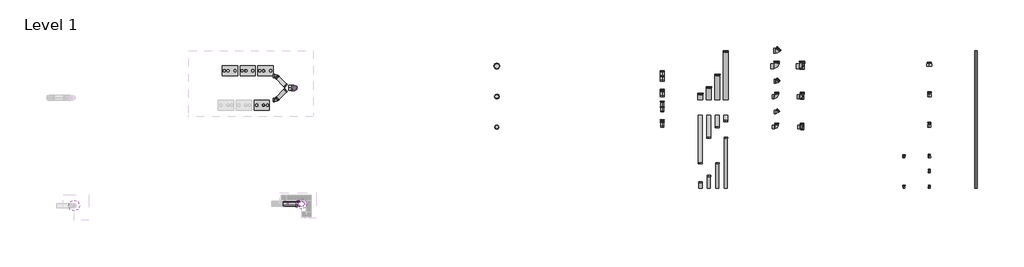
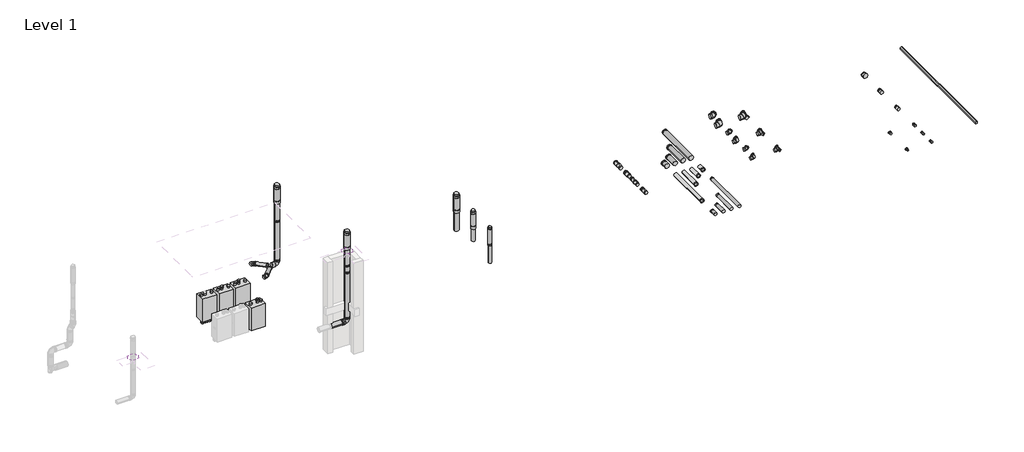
# One storey, part 2 of 2: 43 duct fittings, 5 air terminals, 4 duct segments, 4 unitary equipment elements, 2 coverings.
"""IFC4 building model written with IfcOpenShell, lengths in millimetres."""

from ifc_helpers import new_model, si_unit, point, frame, frame_2d, origin, place, context, project, spatial, circle_curve, ellipse_curve, trimmed, segment, composite_curve, outline, extrude, transform, mapped, element, save
from ifc_brep_helpers import plane_surface, cylinder_surface, advanced_brep
from components import air_terminal_c4a1c7fc, air_terminal_16127070, air_terminal_aa595a08, air_terminal_d551fddf, covering_b4739faa, covering_65d68dae, duct_fitting_874dda1b, duct_fitting_8a0d83d2, duct_fitting_533d9af2, duct_fitting_b8df35ce, duct_fitting_9e2eeb5f, duct_fitting_29f06fc0, duct_fitting_5c795bad, duct_fitting_2964ce86, duct_fitting_6345bc61, duct_fitting_84fb14a7, duct_fitting_6d300570, duct_fitting_8dfe7da2, duct_fitting_3590a55b, duct_fitting_fbf5378a, duct_fitting_61e90ce6, duct_fitting_7c9a1def, duct_fitting_1957377e, duct_fitting_58c5740b, duct_fitting_590bbebe, duct_fitting_acd04bb9, duct_fitting_d5854984, duct_fitting_9444e74b, duct_fitting_ad141df4, duct_fitting_7f7e895c, duct_fitting_6e9e7a38, duct_fitting_632ce2a9, duct_fitting_e9746d7f, duct_fitting_32ee2810, duct_fitting_345853f5, duct_fitting_ab07d6e0, duct_fitting_0e4c7d32, duct_fitting_113a3a52, duct_fitting_2b33db09, duct_fitting_a8be000e, duct_fitting_de41c6b8, duct_fitting_274715c7, duct_fitting_88745d1b, duct_fitting_c2fbb5bf, type_1_50a8d933

model = new_model("IFC4")

# Units and contexts
model_context = context("Model", 3, world=origin())
ifc_project = project(units=[si_unit("LENGTHUNIT", "METRE", prefix="MILLI")], contexts=[model_context])

# Site, building, storey
site = spatial("IfcSite", under=ifc_project)
building = spatial("IfcBuilding", under=site)
storey = spatial("IfcBuildingStorey", under=building, Name="Level 1", Elevation=0.0)

# Air terminals
placement = place(None, origin())
air_terminal_shape = air_terminal_c4a1c7fc(model_context)
element("IfcAirTerminal", 1, ObjectType="NLRS_57_AIR_WPB_flue gas rooftop terminal_M&G : PP Black, ø130", at=placement, inside=storey, context=model_context, shape_type="MappedRepresentation", body=[
    mapped(air_terminal_shape, transform((16514.6162486, 5619.2351178, 0.0), x_axis=(1.0, 0.0, 0.0), y_axis=(0.0, 1.0, 0.0), z_axis=(0.0, 0.0, 1.0))),
])
air_terminal_2_shape = air_terminal_16127070(model_context)
element("IfcAirTerminal", 2, ObjectType="NLRS_57_AIR_WPB_flue gas rooftop terminal_M&G : PP Black, ø150", at=placement, inside=storey, context=model_context, shape_type="MappedRepresentation", body=[
    mapped(air_terminal_2_shape, transform((16514.6162486, 6819.2351178, 0.0), x_axis=(1.0, 0.0, 0.0), y_axis=(0.0, 1.0, 0.0), z_axis=(0.0, 0.0, 1.0))),
])
air_terminal_3_shape = air_terminal_aa595a08(model_context)
element("IfcAirTerminal", 3, ObjectType="NLRS_57_AIR_WPB_flue gas rooftop terminal_M&G : PP Black, ø200", at=placement, inside=storey, context=model_context, shape_type="MappedRepresentation", body=[
    mapped(air_terminal_3_shape, transform((16514.6162486, 8019.2351178, 0.0), x_axis=(1.0, 0.0, 0.0), y_axis=(0.0, 1.0, 0.0), z_axis=(0.0, 0.0, 1.0))),
])
air_terminal_4_shape = air_terminal_d551fddf(model_context)
element("IfcAirTerminal", 4, ObjectType="NLRS_57_AIR_WPB_flue gas rooftop terminal_M&G : PP Black, ø200", at=placement, inside=storey, context=model_context, shape_type="MappedRepresentation", body=[
    mapped(air_terminal_4_shape, transform((8838.8962129, 2600.9771745, 4345.0), x_axis=(1.0, 0.0, 0.0), y_axis=(0.0, 1.0, 0.0), z_axis=(0.0, 0.0, 1.0))),
])
element("IfcAirTerminal", 5, ObjectType="NLRS_57_AIR_WPB_flue gas rooftop terminal_M&G : PP Black, ø200", at=placement, inside=storey, context=model_context, shape_type="MappedRepresentation", body=[
    mapped(air_terminal_3_shape, transform((8559.264358, 7157.3674066, 3705.2550343), x_axis=(1.0, 0.0, 0.0), y_axis=(0.0, 1.0, 0.0), z_axis=(0.0, 0.0, 1.0))),
])

# Coverings
covering_shape = covering_b4739faa(model_context)
element("IfcCovering", 6, ObjectType="NLRS_57_GM_WPB_weather slate flat roof_M&G : ø160", at=placement, inside=storey, context=model_context, shape_type="MappedRepresentation", body=[
    mapped(covering_shape, transform((-100.4372498, 2531.918901, 2750.0), x_axis=(1.0, 0.0, 0.0), y_axis=(0.0, 1.0, 0.0), z_axis=(0.0, 0.0, 1.0))),
])
covering_2_shape = covering_65d68dae(model_context)
element("IfcCovering", 7, ObjectType="NLRS_57_GM_WPB_weather slate flat roof_M&G : ø204", at=placement, inside=storey, context=model_context, shape_type="MappedRepresentation", body=[
    mapped(covering_2_shape, transform((8838.8962129, 2600.9771745, 4250.0), x_axis=(1.0, 0.0, 0.0), y_axis=(0.0, 1.0, 0.0), z_axis=(0.0, 0.0, 1.0))),
])

# Duct fittings
duct_fitting_shape = duct_fitting_874dda1b(model_context)
element("IfcDuctFitting", 8, ObjectType="NLRS_57_DUF_UN_Twinline Supportbend_M&G : ø130 - 150 - 200", at=placement, inside=storey, context=model_context, shape_type="MappedRepresentation", body=[
    mapped(duct_fitting_shape, transform((28514.6162486, 5619.2351178, 0.0), x_axis=(1.0, 0.0, 0.0), y_axis=(0.0, 1.0, 0.0), z_axis=(0.0, 0.0, 1.0))),
])
duct_fitting_2_shape = duct_fitting_8a0d83d2(model_context)
element("IfcDuctFitting", 9, ObjectType="NLRS_57_DUF_UN_Twinline Bend_M&G : ø130 - 150 - 200", at=placement, inside=storey, context=model_context, shape_type="MappedRepresentation", body=[
    mapped(duct_fitting_2_shape, transform((27514.6162486, 5619.2351178, 0.0), x_axis=(1.0, 0.0, 0.0), y_axis=(0.0, 1.0, 0.0), z_axis=(0.0, 0.0, 1.0))),
])
duct_fitting_3_shape = duct_fitting_533d9af2(model_context)
element("IfcDuctFitting", 10, ObjectType="NLRS_57_DUF_UN_Twinline Expander_M&G : ø60-80-100-130-150-200", at=placement, inside=storey, context=model_context, shape_type="MappedRepresentation", body=[
    mapped(duct_fitting_3_shape, transform((32514.6162486, 4419.2351178, 0.0), x_axis=(0.0, 1.0, 0.0), y_axis=(-1.0, 0.0, 0.0), z_axis=(0.0, 0.0, 1.0))),
])
duct_fitting_4_shape = duct_fitting_b8df35ce(model_context)
element("IfcDuctFitting", 11, ObjectType="NLRS_57_DUF_UN_Twinline Reducer_M&G : ø080-100-150-200", at=placement, inside=storey, context=model_context, shape_type="MappedRepresentation", body=[
    mapped(duct_fitting_4_shape, transform((33514.6162486, 5619.2351178, 0.0), x_axis=(0.0, 1.0, 0.0), y_axis=(-1.0, 0.0, 0.0), z_axis=(0.0, 0.0, 1.0))),
])
duct_fitting_5_shape = duct_fitting_9e2eeb5f(model_context)
element("IfcDuctFitting", 12, ObjectType="NLRS_57_DUF_UN_Twinline Supportbend_M&G : ø130 - 150 - 200", at=placement, inside=storey, context=model_context, shape_type="MappedRepresentation", body=[
    mapped(duct_fitting_5_shape, transform((28514.6162486, 6819.2351178, 0.0), x_axis=(1.0, 0.0, 0.0), y_axis=(0.0, 1.0, 0.0), z_axis=(0.0, 0.0, 1.0))),
])
duct_fitting_6_shape = duct_fitting_29f06fc0(model_context)
element("IfcDuctFitting", 13, ObjectType="NLRS_57_DUF_UN_Twinline Supportbend_M&G : ø130 - 150 - 200", at=placement, inside=storey, context=model_context, shape_type="MappedRepresentation", body=[
    mapped(duct_fitting_6_shape, transform((28514.6162486, 8019.2351178, 0.0), x_axis=(1.0, 0.0, 0.0), y_axis=(0.0, 1.0, 0.0), z_axis=(0.0, 0.0, 1.0))),
])
duct_fitting_7_shape = duct_fitting_5c795bad(model_context)
element("IfcDuctFitting", 14, ObjectType="NLRS_57_DUF_UN_Twinline Reducer_M&G : ø080-100-150-200", at=placement, inside=storey, context=model_context, shape_type="MappedRepresentation", body=[
    mapped(duct_fitting_7_shape, transform((33514.6162486, 3219.2351178, 0.0), x_axis=(0.0, 1.0, 0.0), y_axis=(-1.0, 0.0, 0.0), z_axis=(0.0, 0.0, 1.0))),
])
duct_fitting_8_shape = duct_fitting_2964ce86(model_context)
element("IfcDuctFitting", 15, ObjectType="NLRS_57_DUF_UN_Twinline Reducer_M&G : ø080-100-150-200", at=placement, inside=storey, context=model_context, shape_type="MappedRepresentation", body=[
    mapped(duct_fitting_8_shape, transform((33514.6162486, 4419.2351178, 0.0), x_axis=(0.0, 1.0, 0.0), y_axis=(-1.0, 0.0, 0.0), z_axis=(0.0, 0.0, 1.0))),
])
duct_fitting_9_shape = duct_fitting_6345bc61(model_context)
element("IfcDuctFitting", 16, ObjectType="NLRS_57_DUF_UN_Twinline Reducer_M&G : ø080-100-150-200", at=placement, inside=storey, context=model_context, shape_type="MappedRepresentation", body=[
    mapped(duct_fitting_9_shape, transform((33514.6162486, 6819.2351178, 0.0), x_axis=(0.0, 1.0, 0.0), y_axis=(-1.0, 0.0, 0.0), z_axis=(0.0, 0.0, 1.0))),
])
duct_fitting_10_shape = duct_fitting_84fb14a7(model_context)
element("IfcDuctFitting", 17, ObjectType="NLRS_57_DUF_UN_Twinline Reducer_M&G : ø080-100-150-200", at=placement, inside=storey, context=model_context, shape_type="MappedRepresentation", body=[
    mapped(duct_fitting_10_shape, transform((33514.6162486, 8019.2351178, 0.0), x_axis=(0.0, 1.0, 0.0), y_axis=(-1.0, 0.0, 0.0), z_axis=(0.0, 0.0, 1.0))),
])
duct_fitting_11_shape = duct_fitting_6d300570(model_context)
element("IfcDuctFitting", 18, ObjectType="NLRS_57_DUF_UN_Twinline Reducer_M&G : ø080-100-150-200", at=placement, inside=storey, context=model_context, shape_type="MappedRepresentation", body=[
    mapped(duct_fitting_11_shape, transform((33514.6162486, 3819.2351178, 0.0), x_axis=(0.0, 1.0, 0.0), y_axis=(-1.0, 0.0, 0.0), z_axis=(0.0, 0.0, 1.0))),
])
duct_fitting_12_shape = duct_fitting_8dfe7da2(model_context)
element("IfcDuctFitting", 19, ObjectType="NLRS_57_DUF_UN_Twinline Extension_M&G : ø130-150-200", at=placement, inside=storey, context=model_context, shape_type="MappedRepresentation", body=[
    mapped(duct_fitting_12_shape, transform((24847.9495819, 6704.2351178, 0.0), x_axis=(0.0, 1.0, 0.0), y_axis=(-1.0, 0.0, 0.0), z_axis=(0.0, 0.0, 1.0))),
])
duct_fitting_13_shape = duct_fitting_3590a55b(model_context)
element("IfcDuctFitting", 20, ObjectType="NLRS_57_DUF_UN_Twinline Extension_M&G : ø130-150-200", at=placement, inside=storey, context=model_context, shape_type="MappedRepresentation", body=[
    mapped(duct_fitting_13_shape, transform((8106.8962129, 2600.9771745, 1178.3755805), x_axis=(1.0, 0.0, 0.0), y_axis=(0.0, 1.0, 0.0), z_axis=(0.0, 0.0, 1.0))),
])
duct_fitting_14_shape = duct_fitting_fbf5378a(model_context)
element("IfcDuctFitting", 21, ObjectType="NLRS_57_DUF_UN_Twinline Extension_M&G : ø130-150-200", at=placement, inside=storey, context=model_context, shape_type="MappedRepresentation", body=[
    mapped(duct_fitting_14_shape, transform((8838.8962129, 2600.9771745, 1313.3755805), x_axis=(0.0, 0.0, 1.0), y_axis=(-1.0, 0.0, 0.0), z_axis=(0.0, -1.0, 0.0))),
])
duct_fitting_15_shape = duct_fitting_61e90ce6(model_context)
element("IfcDuctFitting", 22, ObjectType="NLRS_57_DUF_UN_Twinline Extension_M&G : ø130-150-200", at=placement, inside=storey, context=model_context, shape_type="MappedRepresentation", body=[
    mapped(duct_fitting_15_shape, transform((8838.8962129, 2600.9771745, 3313.3755805), x_axis=(0.0, 0.0, 1.0), y_axis=(-1.0, 0.0, 0.0), z_axis=(0.0, -1.0, 0.0))),
])
duct_fitting_16_shape = duct_fitting_7c9a1def(model_context)
element("IfcDuctFitting", 23, ObjectType="NLRS_57_DUF_UN_Twinline Extension_M&G : ø130-150-200", at=placement, inside=storey, context=model_context, shape_type="MappedRepresentation", body=[
    mapped(duct_fitting_16_shape, transform((7871.6808629, 6729.14354, 997.8208209), x_axis=(0.7069643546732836, 0.707106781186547, 0.014191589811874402), y_axis=(-0.7069643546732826, 0.7071067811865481, -0.01419158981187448), z_axis=(-0.020069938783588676, 0.0, 0.9997985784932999))),
])
element("IfcDuctFitting", 24, ObjectType="NLRS_57_DUF_UN_Twinline Extension_M&G : ø130-150-200", at=placement, inside=storey, context=model_context, shape_type="MappedRepresentation", body=[
    mapped(duct_fitting_16_shape, transform((25181.2829153, 6089.2351058, 0.0), x_axis=(0.0, -1.0, 0.0), y_axis=(1.0, 0.0, 0.0), z_axis=(0.0, 0.0, 1.0))),
])
element("IfcDuctFitting", 25, ObjectType="NLRS_57_DUF_UN_Twinline Extension_M&G : ø130-150-200", at=placement, inside=storey, context=model_context, shape_type="MappedRepresentation", body=[
    mapped(duct_fitting_16_shape, transform((7871.6808629, 7585.5912733, 997.8208209), x_axis=(0.7069643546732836, -0.707106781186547, 0.014191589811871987), y_axis=(-0.7069643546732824, -0.7071067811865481, -0.014191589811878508), z_axis=(0.020069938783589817, 0.0, -0.9997985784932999))),
])
duct_fitting_17_shape = duct_fitting_1957377e(model_context)
element("IfcDuctFitting", 26, ObjectType="NLRS_57_DUF_UN_Twinline Extension_M&G : ø130-150-200", at=placement, inside=storey, context=model_context, shape_type="MappedRepresentation", body=[
    mapped(duct_fitting_17_shape, transform((8559.264358, 7157.3674066, 1171.6283963), x_axis=(0.0, 0.0, 1.0), y_axis=(-1.0, 0.0, 0.0), z_axis=(0.0, -1.0, 0.0))),
])
duct_fitting_18_shape = duct_fitting_58c5740b(model_context)
element("IfcDuctFitting", 27, ObjectType="NLRS_57_DUF_UN_Twinline Extension_M&G : ø130-150-200", at=placement, inside=storey, context=model_context, shape_type="MappedRepresentation", body=[
    mapped(duct_fitting_18_shape, transform((24847.9495819, 3219.2351178, 0.0), x_axis=(0.0, 1.0, 0.0), y_axis=(-1.0, 0.0, 0.0), z_axis=(0.0, 0.0, 1.0))),
])
duct_fitting_19_shape = duct_fitting_590bbebe(model_context)
element("IfcDuctFitting", 28, ObjectType="NLRS_57_DUF_UN_Twinline Extension_M&G : ø130-150-200", at=placement, inside=storey, context=model_context, shape_type="MappedRepresentation", body=[
    mapped(duct_fitting_19_shape, transform((24514.6162486, 3219.2351178, 0.0), x_axis=(0.0, 1.0, 0.0), y_axis=(-1.0, 0.0, 0.0), z_axis=(0.0, 0.0, 1.0))),
])
duct_fitting_20_shape = duct_fitting_acd04bb9(model_context)
element("IfcDuctFitting", 29, ObjectType="NLRS_57_DUF_UN_Twinline Extension_M&G : ø130-150-200", at=placement, inside=storey, context=model_context, shape_type="MappedRepresentation", body=[
    mapped(duct_fitting_20_shape, transform((25181.2829153, 3219.2351178, 0.0), x_axis=(0.0, 1.0, 0.0), y_axis=(-1.0, 0.0, 0.0), z_axis=(0.0, 0.0, 1.0))),
])
duct_fitting_21_shape = duct_fitting_d5854984(model_context)
element("IfcDuctFitting", 30, ObjectType="NLRS_57_DUF_UN_Twinline Extension_M&G : ø130-150-200", at=placement, inside=storey, context=model_context, shape_type="MappedRepresentation", body=[
    mapped(duct_fitting_21_shape, transform((25514.6162486, 3219.2351178, 0.0), x_axis=(0.0, 1.0, 0.0), y_axis=(-1.0, 0.0, 0.0), z_axis=(0.0, 0.0, 1.0))),
])
duct_fitting_22_shape = duct_fitting_9444e74b(model_context)
element("IfcDuctFitting", 31, ObjectType="NLRS_57_DUF_UN_Twinline Extension_M&G : ø130-150-200", at=placement, inside=storey, context=model_context, shape_type="MappedRepresentation", body=[
    mapped(duct_fitting_22_shape, transform((24847.9495819, 6089.2351058, 0.0), x_axis=(0.0, -1.0, 0.0), y_axis=(1.0, 0.0, 0.0), z_axis=(0.0, 0.0, 1.0))),
])
duct_fitting_23_shape = duct_fitting_ad141df4(model_context)
element("IfcDuctFitting", 32, ObjectType="NLRS_57_DUF_UN_Twinline Extension_M&G : ø130-150-200", at=placement, inside=storey, context=model_context, shape_type="MappedRepresentation", body=[
    mapped(duct_fitting_23_shape, transform((24514.6162486, 6089.2351058, 0.0), x_axis=(0.0, -1.0, 0.0), y_axis=(1.0, 0.0, 0.0), z_axis=(0.0, 0.0, 1.0))),
])
duct_fitting_24_shape = duct_fitting_7f7e895c(model_context)
element("IfcDuctFitting", 33, ObjectType="NLRS_57_DUF_UN_Twinline Extension_M&G : ø130-150-200", at=placement, inside=storey, context=model_context, shape_type="MappedRepresentation", body=[
    mapped(duct_fitting_24_shape, transform((24514.6162486, 6704.2351178, 0.0), x_axis=(0.0, 1.0, 0.0), y_axis=(-1.0, 0.0, 0.0), z_axis=(0.0, 0.0, 1.0))),
])
duct_fitting_25_shape = duct_fitting_6e9e7a38(model_context)
element("IfcDuctFitting", 34, ObjectType="NLRS_57_DUF_UN_Twinline Extension_M&G : ø130-150-200", at=placement, inside=storey, context=model_context, shape_type="MappedRepresentation", body=[
    mapped(duct_fitting_25_shape, transform((25181.2829153, 6704.2351178, 0.0), x_axis=(0.0, 1.0, 0.0), y_axis=(-1.0, 0.0, 0.0), z_axis=(0.0, 0.0, 1.0))),
])
duct_fitting_26_shape = duct_fitting_632ce2a9(model_context)
element("IfcDuctFitting", 35, ObjectType="NLRS_57_DUF_UN_Twinline Extension_M&G : ø130-150-200", at=placement, inside=storey, context=model_context, shape_type="MappedRepresentation", body=[
    mapped(duct_fitting_26_shape, transform((25514.6162486, 6704.2351178, 0.0), x_axis=(0.0, 1.0, 0.0), y_axis=(-1.0, 0.0, 0.0), z_axis=(0.0, 0.0, 1.0))),
])
duct_fitting_27_shape = duct_fitting_e9746d7f(model_context)
element("IfcDuctFitting", 36, ObjectType="NLRS_57_DUF_UN_Twinline Extension_M&G : ø130-150-200", at=placement, inside=storey, context=model_context, shape_type="MappedRepresentation", body=[
    mapped(duct_fitting_27_shape, transform((25514.6162486, 6089.2351058, 0.0), x_axis=(0.0, -1.0, 0.0), y_axis=(1.0, 0.0, 0.0), z_axis=(0.0, 0.0, 1.0))),
])
duct_fitting_28_shape = duct_fitting_32ee2810(model_context)
element("IfcDuctFitting", 37, ObjectType="NLRS_57_DUF_UN_Twinline Expander_M&G : ø60-80-100-130-150-200", at=placement, inside=storey, context=model_context, shape_type="MappedRepresentation", body=[
    mapped(duct_fitting_28_shape, transform((32514.6162486, 3219.2351178, 0.0), x_axis=(0.0, 1.0, 0.0), y_axis=(-1.0, 0.0, 0.0), z_axis=(0.0, 0.0, 1.0))),
])
duct_fitting_29_shape = duct_fitting_345853f5(model_context)
element("IfcDuctFitting", 38, ObjectType="NLRS_57_DUF_UN_Twinline Bend_M&G : ø130 - 150 - 200", at=placement, inside=storey, context=model_context, shape_type="MappedRepresentation", body=[
    mapped(duct_fitting_29_shape, transform((8838.8962129, 2600.9771745, 1178.3755805), x_axis=(1.0, 0.0, 0.0), y_axis=(0.0, 0.0, 1.0), z_axis=(0.0, -1.0, 0.0))),
])
element("IfcDuctFitting", 39, ObjectType="NLRS_57_DUF_UN_Twinline Bend_M&G : ø130 - 150 - 200", at=placement, inside=storey, context=model_context, shape_type="MappedRepresentation", body=[
    mapped(duct_fitting_29_shape, transform((27514.6162486, 8019.2351178, 0.0), x_axis=(1.0, 0.0, 0.0), y_axis=(0.0, 1.0, 0.0), z_axis=(0.0, 0.0, 1.0))),
])
duct_fitting_30_shape = duct_fitting_ab07d6e0(model_context)
element("IfcDuctFitting", 40, ObjectType="NLRS_57_DUF_UN_Twinline Bend_M&G : ø130 - 150 - 200", at=placement, inside=storey, context=model_context, shape_type="MappedRepresentation", body=[
    mapped(duct_fitting_30_shape, transform((27514.6162486, 8619.2351178, 0.0), x_axis=(1.0, 0.0, 0.0), y_axis=(0.0, 1.0, 0.0), z_axis=(0.0, 0.0, 1.0))),
])
duct_fitting_31_shape = duct_fitting_0e4c7d32(model_context)
element("IfcDuctFitting", 41, ObjectType="NLRS_57_DUF_UN_Twinline Bend_M&G : ø130 - 150 - 200", at=placement, inside=storey, context=model_context, shape_type="MappedRepresentation", body=[
    mapped(duct_fitting_31_shape, transform((27514.6162486, 6819.2351178, 0.0), x_axis=(1.0, 0.0, 0.0), y_axis=(0.0, 1.0, 0.0), z_axis=(0.0, 0.0, 1.0))),
])
duct_fitting_32_shape = duct_fitting_113a3a52(model_context)
element("IfcDuctFitting", 42, ObjectType="NLRS_57_DUF_UN_Twinline Bend_M&G : ø130 - 150 - 200", at=placement, inside=storey, context=model_context, shape_type="MappedRepresentation", body=[
    mapped(duct_fitting_32_shape, transform((7827.1421086, 7630.1390005, 996.9267508), x_axis=(0.9997985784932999, 0.0, 0.020069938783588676), y_axis=(0.0, -1.0000000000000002, 0.0), z_axis=(0.020069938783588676, 0.0, -0.9997985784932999))),
])
element("IfcDuctFitting", 43, ObjectType="NLRS_57_DUF_UN_Twinline Bend_M&G : ø130 - 150 - 200", at=placement, inside=storey, context=model_context, shape_type="MappedRepresentation", body=[
    mapped(duct_fitting_32_shape, transform((27514.6162486, 7419.2351178, 0.0), x_axis=(1.0, 0.0, 0.0), y_axis=(0.0, 1.0, 0.0), z_axis=(0.0, 0.0, 1.0))),
])
element("IfcDuctFitting", 44, ObjectType="NLRS_57_DUF_UN_Twinline Bend_M&G : ø130 - 150 - 200", at=placement, inside=storey, context=model_context, shape_type="MappedRepresentation", body=[
    mapped(duct_fitting_32_shape, transform((7827.1421086, 6684.5958127, 996.9267508), x_axis=(0.9997985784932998, 0.0, 0.020069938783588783), y_axis=(0.0, 1.0, 0.0), z_axis=(-0.020069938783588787, 0.0, 0.9997985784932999))),
])
duct_fitting_33_shape = duct_fitting_2b33db09(model_context)
element("IfcDuctFitting", 45, ObjectType="NLRS_57_DUF_UN_Twinline Bend_M&G : ø130 - 150 - 200", at=placement, inside=storey, context=model_context, shape_type="MappedRepresentation", body=[
    mapped(duct_fitting_33_shape, transform((8559.264358, 7157.3674066, 1036.6283963), x_axis=(0.9997985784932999, 0.0, 0.020069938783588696), y_axis=(-0.020069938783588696, 0.0, 0.9997985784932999), z_axis=(0.0, -1.0, 0.0))),
])
duct_fitting_34_shape = duct_fitting_a8be000e(model_context)
element("IfcDuctFitting", 46, ObjectType="NLRS_57_DUF_UN_Twinline Bend_M&G : ø130 - 150 - 200", at=placement, inside=storey, context=model_context, shape_type="MappedRepresentation", body=[
    mapped(duct_fitting_34_shape, transform((27514.6162486, 6219.2351178, 0.0), x_axis=(1.0, 0.0, 0.0), y_axis=(0.0, 1.0, 0.0), z_axis=(0.0, 0.0, 1.0))),
])
duct_fitting_35_shape = duct_fitting_de41c6b8(model_context)
element("IfcDuctFitting", 47, ObjectType="NLRS_57_DUF_UN_Twinline Adjuster_M&G : ø130-150", at=placement, inside=storey, context=model_context, shape_type="MappedRepresentation", body=[
    mapped(duct_fitting_35_shape, transform((23014.6162486, 5619.2351178, 0.0), x_axis=(0.0, 1.0, 0.0), y_axis=(-1.0, 0.0, 0.0), z_axis=(0.0, 0.0, 1.0))),
])
duct_fitting_36_shape = duct_fitting_274715c7(model_context)
element("IfcDuctFitting", 48, ObjectType="NLRS_57_DUF_UN_Twinline Adjuster_M&G : ø130-150", at=placement, inside=storey, context=model_context, shape_type="MappedRepresentation", body=[
    mapped(duct_fitting_36_shape, transform((23014.6162486, 6219.2351178, 0.0), x_axis=(0.0, 1.0, 0.0), y_axis=(-1.0, 0.0, 0.0), z_axis=(0.0, 0.0, 1.0))),
])
duct_fitting_37_shape = duct_fitting_88745d1b(model_context)
element("IfcDuctFitting", 49, ObjectType="NLRS_57_DUF_UN_Twinline Adjuster_M&G : ø130-150", at=placement, inside=storey, context=model_context, shape_type="MappedRepresentation", body=[
    mapped(duct_fitting_37_shape, transform((23014.6162486, 6819.2351178, 0.0), x_axis=(0.0, 1.0, 0.0), y_axis=(-1.0, 0.0, 0.0), z_axis=(0.0, 0.0, 1.0))),
])
duct_fitting_38_shape = duct_fitting_c2fbb5bf(model_context)
element("IfcDuctFitting", 50, ObjectType="NLRS_57_DUF_UN_Twinline Adjuster_M&G : ø130-150", at=placement, inside=storey, context=model_context, shape_type="MappedRepresentation", body=[
    mapped(duct_fitting_38_shape, transform((23014.6162486, 7419.2351178, 0.0), x_axis=(0.0, 1.0, 0.0), y_axis=(-1.0, 0.0, 0.0), z_axis=(0.0, 0.0, 1.0))),
])

# Duct segments
element("IfcDuctSegment", 51, ObjectType="Twinline Design config", at=placement, inside=storey, context=model_context, shape_type="SweptSolid", body=[
    extrude(outline(composite_curve([segment(trimmed(circle_curve(frame_2d((225.0, 35356.3228665)), 50.0), [point((225.0, 35306.3228665))], [point((175.0, 35356.3228665))], False, "CARTESIAN"), True, "CONTINUOUS"), segment(trimmed(circle_curve(frame_2d((225.0, 35356.3228665)), 50.0), [point((175.0, 35356.3228665))], [point((225.0, 35406.3228665))], False, "CARTESIAN"), True, "CONTINUOUS"), segment(trimmed(circle_curve(frame_2d((225.0, 35356.3228665)), 50.0), [point((225.0, 35406.3228665))], [point((275.0, 35356.3228665))], False, "CARTESIAN"), True, "CONTINUOUS"), segment(trimmed(circle_curve(frame_2d((225.0, 35356.3228665)), 50.0), [point((275.0, 35356.3228665))], [point((225.0, 35306.3228665))], False, "CARTESIAN"), True, "CONTINUOUS")], self_intersect=False)), frame((0.0, 3219.2351178, 0.0), z_axis=(0.0, 1.0, 0.0), x_axis=(0.0, 0.0, 1.0)), (0.0, 0.0, 1.0), 5400.0),
])
element("IfcDuctSegment", 52, ObjectType="Flex - Round", at=placement, inside=storey, context=model_context, shape_type="AdvancedBrep", body=[
    advanced_brep(
    [(7397.5915742, 7826.4563666, 225.0), (7339.5056924, 7786.1324652, 224.8846446), (7299.1816363, 7844.2182397, 225.0), (7357.2675181, 7884.5421411, 225.1153554), (7397.573994, 7826.3589632, 267.9008687), (7339.4881571, 7786.0353109, 267.6757795), (7299.1640561, 7844.1208362, 267.9008687), (7357.249893, 7884.4444885, 268.1259579), (7397.5229671, 7826.0762482, 310.8009108), (7357.1987356, 7884.1610504, 311.1357316), (7299.1130293, 7843.8381212, 310.8009108), (7339.4372608, 7785.753319, 310.46609)],
    [
        (0, 1, circle_curve(frame((7348.3866052, 7835.3373031, 225.0), z_axis=(0.0004097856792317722, 0.0022704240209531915, -0.9999973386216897), x_axis=(0.9840993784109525, -0.17761873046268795, 0.0)), 50.0)),
        (1, 2, circle_curve(frame((7348.3866052, 7835.3373031, 225.0), z_axis=(0.0004097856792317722, 0.0022704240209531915, -0.9999973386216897), x_axis=(0.9840993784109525, -0.17761873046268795, 0.0)), 50.0)),
        (2, 3, circle_curve(frame((7348.3866052, 7835.3373031, 225.0), z_axis=(0.0004097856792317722, 0.0022704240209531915, -0.9999973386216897), x_axis=(0.9840993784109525, -0.17761873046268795, 0.0)), 50.0)),
        (3, 0, circle_curve(frame((7348.3866052, 7835.3373031, 225.0), z_axis=(0.0004097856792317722, 0.0022704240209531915, -0.9999973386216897), x_axis=(0.9840993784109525, -0.17761873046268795, 0.0)), 50.0)),
        (0, 4),
        (4, 5, ellipse_curve(frame((7348.369025, 7835.2398997, 267.9008687), z_axis=(0.0007995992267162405, 0.004430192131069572, -0.9999898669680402), x_axis=(-0.1776169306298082, -0.9840894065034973, -0.00450177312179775)), 50.0001204, 50.0)),
        (5, 1),
        (5, 6, ellipse_curve(frame((7348.369025, 7835.2398997, 267.9008687), z_axis=(0.0007995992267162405, 0.004430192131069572, -0.9999898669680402), x_axis=(-0.1776169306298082, -0.9840894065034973, -0.00450177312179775)), 50.0001204, 50.0)),
        (6, 2),
        (6, 7, ellipse_curve(frame((7348.369025, 7835.2398997, 267.9008687), z_axis=(0.0007995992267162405, 0.004430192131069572, -0.9999898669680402), x_axis=(-0.1776169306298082, -0.9840894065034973, -0.00450177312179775)), 50.0001204, 50.0)),
        (7, 3),
        (7, 4, ellipse_curve(frame((7348.369025, 7835.2398997, 267.9008687), z_axis=(0.0007995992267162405, 0.004430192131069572, -0.9999898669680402), x_axis=(-0.1776169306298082, -0.9840894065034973, -0.00450177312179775)), 50.0001204, 50.0)),
        (8, 9, circle_curve(frame((7348.3179982, 7834.9571847, 310.8009108), z_axis=(-0.0011894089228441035, -0.0065899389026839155, 0.9999775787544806), x_axis=(0.9840993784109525, -0.1776187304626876, 0.0)), 50.0)),
        (9, 10, circle_curve(frame((7348.3179982, 7834.9571847, 310.8009108), z_axis=(-0.0011894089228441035, -0.0065899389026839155, 0.9999775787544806), x_axis=(0.9840993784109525, -0.1776187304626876, 0.0)), 50.0)),
        (10, 11, circle_curve(frame((7348.3179982, 7834.9571847, 310.8009108), z_axis=(-0.0011894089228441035, -0.0065899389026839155, 0.9999775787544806), x_axis=(0.9840993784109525, -0.1776187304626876, 0.0)), 50.0)),
        (11, 8, circle_curve(frame((7348.3179982, 7834.9571847, 310.8009108), z_axis=(-0.0011894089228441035, -0.0065899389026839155, 0.9999775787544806), x_axis=(0.9840993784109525, -0.1776187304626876, 0.0)), 50.0)),
        (4, 8),
        (11, 5),
        (10, 6),
        (9, 7),
    ],
    [
        plane_surface(frame((7348.3866052, 7785.337432, 224.8864788), z_axis=(0.0004097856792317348, 0.0022704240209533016, -0.9999973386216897), x_axis=(0.9999999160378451, -9.303873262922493e-07, 0.0004097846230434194))),
        cylinder_surface(frame((7348.3866052, 7835.3373031, 225.0), z_axis=(0.0004097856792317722, 0.0022704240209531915, -0.9999973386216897), x_axis=(0.9840993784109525, -0.17761873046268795, 0.0)), 50.0),
        plane_surface(frame((7348.3179982, 7784.9582704, 310.4714136), z_axis=(-0.0011894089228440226, -0.0065899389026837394, 0.9999775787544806), x_axis=(0.9999992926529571, -7.838137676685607e-06, 0.001189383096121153))),
        cylinder_surface(frame((7348.369025, 7835.2398997, 267.9008687), z_axis=(0.0011894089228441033, 0.006589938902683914, -0.9999775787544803), x_axis=(0.9840993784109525, -0.1776187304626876, 0.0)), 50.0),
    ],
    [
        (0, [[1, 2, 3, 4]]),
        (1, [[-1, 5, 6, 7]]),
        (1, [[-2, -7, 8, 9]]),
        (1, [[-3, -9, 10, 11]]),
        (1, [[-4, -11, 12, -5]]),
        (2, [[13, 14, 15, 16]]),
        (3, [[-6, 17, -16, 18]]),
        (3, [[-8, -18, -15, 19]]),
        (3, [[-10, -19, -14, 20]]),
        (3, [[-12, -20, -13, -17]]),
    ],
),
])
element("IfcDuctSegment", 53, ObjectType="Flex - Round", at=placement, inside=storey, context=model_context, shape_type="AdvancedBrep", body=[
    advanced_brep(
    [(6697.1906484, 7823.7982417, 225.0), (6637.0013637, 7786.6872729, 224.8387557), (6599.8900819, 7846.8763646, 225.0), (6660.0793666, 7883.9873334, 225.1612443), (6697.163952, 7823.6856859, 260.8703653), (6636.9747444, 7786.5750422, 260.6055066), (6599.8633766, 7846.7637715, 260.8822796), (6660.0525842, 7883.8744152, 261.1471383), (6697.10929, 7823.4181864, 296.7400396), (6659.9977462, 7883.6060541, 297.1323386), (6599.8086965, 7846.4961831, 296.7638678), (6636.9202403, 7786.3083154, 296.3715688)],
    [
        (0, 1, circle_curve(frame((6648.5403652, 7835.3373031, 225.0), z_axis=(0.0007442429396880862, 0.003137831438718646, -0.9999948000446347), x_axis=(0.9730056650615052, -0.23078122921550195, 0.0)), 50.0)),
        (1, 2, circle_curve(frame((6648.5403652, 7835.3373031, 225.0), z_axis=(0.0007442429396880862, 0.003137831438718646, -0.9999948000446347), x_axis=(0.9730056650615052, -0.23078122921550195, 0.0)), 50.0)),
        (2, 3, circle_curve(frame((6648.5403652, 7835.3373031, 225.0), z_axis=(0.0007442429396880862, 0.003137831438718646, -0.9999948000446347), x_axis=(0.9730056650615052, -0.23078122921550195, 0.0)), 50.0)),
        (3, 0, circle_curve(frame((6648.5403652, 7835.3373031, 225.0), z_axis=(0.0007442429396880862, 0.003137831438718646, -0.9999948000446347), x_axis=(0.9730056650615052, -0.23078122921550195, 0.0)), 50.0)),
        (0, 4),
        (4, 5, ellipse_curve(frame((6648.5136643, 7835.2247287, 260.8763224), z_axis=(0.001134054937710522, 0.005297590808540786, -0.9999853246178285), x_axis=(-0.1776159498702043, -0.9840849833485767, -0.005414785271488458)), 50.0001204, 50.0)),
        (5, 1),
        (5, 6, ellipse_curve(frame((6648.5136643, 7835.2247287, 260.8763224), z_axis=(0.001134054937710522, 0.005297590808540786, -0.9999853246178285), x_axis=(-0.1776159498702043, -0.9840849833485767, -0.005414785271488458)), 50.0001204, 50.0)),
        (6, 2),
        (6, 7, ellipse_curve(frame((6648.5136643, 7835.2247287, 260.8763224), z_axis=(0.001134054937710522, 0.005297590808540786, -0.9999853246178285), x_axis=(-0.1776159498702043, -0.9840849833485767, -0.005414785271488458)), 50.0001204, 50.0)),
        (7, 3),
        (7, 4, ellipse_curve(frame((6648.5136643, 7835.2247287, 260.8763224), z_axis=(0.001134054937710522, 0.005297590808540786, -0.9999853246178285), x_axis=(-0.1776159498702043, -0.9840849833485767, -0.005414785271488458)), 50.0001204, 50.0)),
        (8, 9, circle_curve(frame((6648.4589933, 7834.9571847, 296.7519537), z_axis=(-0.0015238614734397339, -0.007457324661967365, 0.9999710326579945), x_axis=(0.973005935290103, -0.230779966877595, -0.00023828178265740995)), 50.0)),
        (9, 10, circle_curve(frame((6648.4589933, 7834.9571847, 296.7519537), z_axis=(-0.0015238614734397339, -0.007457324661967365, 0.9999710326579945), x_axis=(0.973005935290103, -0.230779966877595, -0.00023828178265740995)), 50.0)),
        (10, 11, circle_curve(frame((6648.4589933, 7834.9571847, 296.7519537), z_axis=(-0.0015238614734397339, -0.007457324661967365, 0.9999710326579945), x_axis=(0.973005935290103, -0.230779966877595, -0.00023828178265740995)), 50.0)),
        (11, 8, circle_curve(frame((6648.4589933, 7834.9571847, 296.7519537), z_axis=(-0.0015238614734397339, -0.007457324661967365, 0.9999710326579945), x_axis=(0.973005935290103, -0.230779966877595, -0.00023828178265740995)), 50.0)),
        (4, 8),
        (11, 5),
        (10, 6),
        (9, 7),
    ],
    [
        plane_surface(frame((6648.5403652, 7785.3375493, 224.8431084), z_axis=(0.0007442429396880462, 0.0031378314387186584, -0.9999948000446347), x_axis=(0.999999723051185, -2.335309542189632e-06, 0.0007442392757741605))),
        cylinder_surface(frame((6648.5403652, 7835.3373031, 225.0), z_axis=(0.0007442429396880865, 0.0031378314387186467, -0.9999948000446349), x_axis=(0.9730056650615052, -0.23078122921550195, 0.0)), 50.0),
        plane_surface(frame((6648.4589933, 7784.958575, 296.379087), z_axis=(-0.001523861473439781, -0.007457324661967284, 0.9999710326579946), x_axis=(0.9999988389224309, -1.1363942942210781e-05, 0.0015238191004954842))),
        cylinder_surface(frame((6648.5136643, 7835.2247287, 260.8763224), z_axis=(0.0015238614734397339, 0.007457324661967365, -0.9999710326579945), x_axis=(0.973005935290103, -0.230779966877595, -0.00023828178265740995)), 50.0),
    ],
    [
        (0, [[1, 2, 3, 4]]),
        (1, [[-1, 5, 6, 7]]),
        (1, [[-2, -7, 8, 9]]),
        (1, [[-3, -9, 10, 11]]),
        (1, [[-4, -11, 12, -5]]),
        (2, [[13, 14, 15, 16]]),
        (3, [[-6, 17, -16, 18]]),
        (3, [[-8, -18, -15, 19]]),
        (3, [[-10, -19, -14, 20]]),
        (3, [[-12, -20, -13, -17]]),
    ],
),
])
element("IfcDuctSegment", 54, ObjectType="Flex - Round", at=placement, inside=storey, context=model_context, shape_type="AdvancedBrep", body=[
    advanced_brep(
    [(7328.6492295, 6434.6570805, 225.0), (7300.1556977, 6499.372701, 224.9157539), (7364.8712778, 6527.8663247, 225.0), (7393.3648097, 6463.1507041, 225.0842461), (7328.5817089, 6434.6833197, 267.9929269), (7300.0881962, 6499.3989894, 267.9086808), (7364.803708, 6527.892583, 267.9929268), (7393.2972699, 6463.1768942, 268.0771731), (7328.5335153, 6434.8425479, 311.1374695), (7393.249253, 6463.335919, 311.104395), (7364.755972, 6528.0511375, 310.8334017), (7300.0402343, 6499.5577664, 310.8664762)],
    [
        (0, 1, circle_curve(frame((7346.7602537, 6481.2617026, 225.0), z_axis=(0.001570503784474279, -0.0006103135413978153, -0.9999985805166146), x_axis=(-0.3622204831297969, -0.9320924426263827, 0.0)), 50.0)),
        (1, 2, circle_curve(frame((7346.7602537, 6481.2617026, 225.0), z_axis=(0.001570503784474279, -0.0006103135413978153, -0.9999985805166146), x_axis=(-0.3622204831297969, -0.9320924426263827, 0.0)), 50.0)),
        (2, 3, circle_curve(frame((7346.7602537, 6481.2617026, 225.0), z_axis=(0.001570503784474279, -0.0006103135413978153, -0.9999985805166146), x_axis=(-0.3622204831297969, -0.9320924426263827, 0.0)), 50.0)),
        (3, 0, circle_curve(frame((7346.7602537, 6481.2617026, 225.0), z_axis=(0.001570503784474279, -0.0006103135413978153, -0.9999985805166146), x_axis=(-0.3622204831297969, -0.9320924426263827, 0.0)), 50.0)),
        (0, 4),
        (4, 5, circle_curve(frame((7346.692733, 6481.2879418, 267.9929269), z_axis=(0.001570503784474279, -0.0006103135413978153, -0.9999985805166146), x_axis=(-0.3622204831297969, -0.9320924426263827, 0.0)), 50.0)),
        (5, 1),
        (5, 6, circle_curve(frame((7346.692733, 6481.2879418, 267.9929269), z_axis=(0.001570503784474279, -0.0006103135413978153, -0.9999985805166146), x_axis=(-0.3622204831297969, -0.9320924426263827, 0.0)), 50.0)),
        (6, 2),
        (6, 7, circle_curve(frame((7346.692733, 6481.2879418, 267.9929269), z_axis=(0.001570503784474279, -0.0006103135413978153, -0.9999985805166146), x_axis=(-0.3622204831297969, -0.9320924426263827, 0.0)), 50.0)),
        (7, 3),
        (7, 4, circle_curve(frame((7346.692733, 6481.2879418, 267.9929269), z_axis=(0.001570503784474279, -0.0006103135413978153, -0.9999985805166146), x_axis=(-0.3622204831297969, -0.9320924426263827, 0.0)), 50.0)),
        (8, 9, circle_curve(frame((7346.6447436, 6481.4468427, 310.9854356), z_axis=(-0.0011162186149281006, 0.003695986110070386, 0.9999925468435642), x_axis=(-0.3622245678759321, -0.9320858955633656, 0.0030406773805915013)), 50.0)),
        (9, 10, circle_curve(frame((7346.6447436, 6481.4468427, 310.9854356), z_axis=(-0.0011162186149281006, 0.003695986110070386, 0.9999925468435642), x_axis=(-0.3622245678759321, -0.9320858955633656, 0.0030406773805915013)), 50.0)),
        (10, 11, circle_curve(frame((7346.6447436, 6481.4468427, 310.9854356), z_axis=(-0.0011162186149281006, 0.003695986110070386, 0.9999925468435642), x_axis=(-0.3622245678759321, -0.9320858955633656, 0.0030406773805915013)), 50.0)),
        (11, 8, circle_curve(frame((7346.6447436, 6481.4468427, 310.9854356), z_axis=(-0.0011162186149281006, 0.003695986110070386, 0.9999925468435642), x_axis=(-0.3622245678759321, -0.9320858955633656, 0.0030406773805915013)), 50.0)),
        (4, 8),
        (11, 5),
        (10, 6),
        (9, 7),
    ],
    [
        plane_surface(frame((7346.7602537, 6431.2617119, 225.0305157), z_axis=(0.0015705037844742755, -0.0006103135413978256, -0.9999985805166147), x_axis=(0.9999987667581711, 9.585009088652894e-07, 0.0015705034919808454))),
        cylinder_surface(frame((7346.7602537, 6481.2617026, 225.0), z_axis=(0.001570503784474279, -0.0006103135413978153, -0.9999985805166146), x_axis=(-0.3622204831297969, -0.9320924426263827, 0.0)), 50.0),
        plane_surface(frame((7346.6447436, 6431.4471842, 311.170235), z_axis=(-0.0011162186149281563, 0.003695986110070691, 0.9999925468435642), x_axis=(0.9999993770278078, 4.125531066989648e-06, 0.0011162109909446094))),
        cylinder_surface(frame((7346.692733, 6481.2879418, 267.9929269), z_axis=(0.0011162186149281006, -0.003695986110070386, -0.9999925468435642), x_axis=(-0.3622245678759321, -0.9320858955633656, 0.0030406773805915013)), 50.0),
    ],
    [
        (0, [[1, 2, 3, 4]]),
        (1, [[-1, 5, 6, 7]]),
        (1, [[-2, -7, 8, 9]]),
        (1, [[-3, -9, 10, 11]]),
        (1, [[-4, -11, 12, -5]]),
        (2, [[13, 14, 15, 16]]),
        (3, [[-6, 17, -16, 18]]),
        (3, [[-8, -18, -15, 19]]),
        (3, [[-10, -19, -14, 20]]),
        (3, [[-12, -20, -13, -17]]),
    ],
),
])

# Unitary equipment
type_1_shape = type_1_50a8d933(model_context)
element("IfcUnitaryEquipment", 55, ObjectType="NLRS_50_ME_UN_MC000066_Gasheating_UOB : Type 1", at=placement, inside=storey, context=model_context, shape_type="MappedRepresentation", body=[
    mapped(type_1_shape, transform((7423.3866052, 7635.3373031, 150.0), x_axis=(-1.0, 0.0, 0.0), y_axis=(0.0, -1.0, 0.0), z_axis=(0.0, 0.0, 1.0))),
])
element("IfcUnitaryEquipment", 56, ObjectType="NLRS_50_ME_UN_MC000066_Gasheating_UOB : Type 1", at=placement, inside=storey, context=model_context, shape_type="MappedRepresentation", body=[
    mapped(type_1_shape, transform((6723.5403652, 7635.3373031, 150.0), x_axis=(-1.0, 0.0, 0.0), y_axis=(0.0, -1.0, 0.0), z_axis=(0.0, 0.0, 1.0))),
])
element("IfcUnitaryEquipment", 57, ObjectType="NLRS_50_ME_UN_MC000066_Gasheating_UOB : Type 1", at=placement, inside=storey, context=model_context, shape_type="MappedRepresentation", body=[
    mapped(type_1_shape, transform((6023.6958528, 7635.4237019, 150.0), x_axis=(-1.0, 0.0, 0.0), y_axis=(0.0, -1.0, 0.0), z_axis=(0.0, 0.0, 1.0))),
])
element("IfcUnitaryEquipment", 58, ObjectType="NLRS_50_ME_UN_MC000066_Gasheating_UOB : Type 1", at=placement, inside=storey, context=model_context, shape_type="MappedRepresentation", body=[
    mapped(type_1_shape, transform((7271.7602537, 6681.2617026, 150.0), x_axis=(1.0, 0.0, 0.0), y_axis=(0.0, 1.0, 0.0), z_axis=(0.0, 0.0, 1.0))),
])

save(model, "model.ifc")
